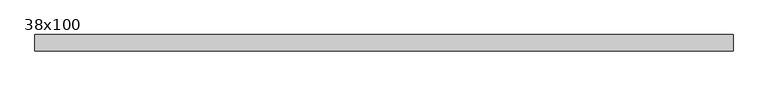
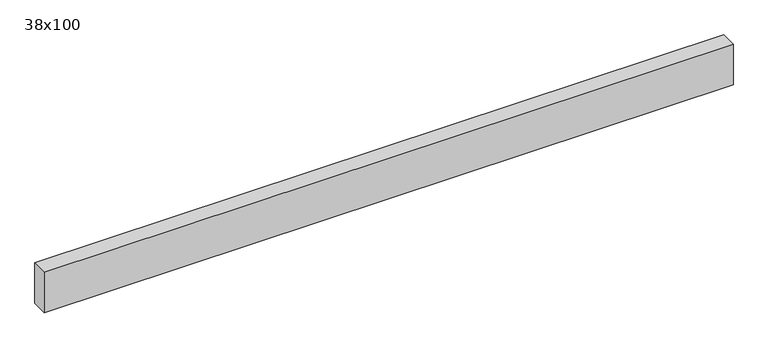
"""IFC4 building model written with IfcOpenShell, lengths in millimetres: beam geometry, Poutre - Bois de construction de dimensions courantes : 38x100."""

from ifc_helpers import new_model, si_unit, frame, origin, place, context, project, spatial, polyline, outline, extrude, source, transform, mapped, element, save


def beam_38x100_ec702416(model_context):
    return source(origin(), model_context, "Body", "SweptSolid", [
        extrude(outline(polyline([(725.0, 19.05), (725.0, -19.05), (-885.0, -19.05), (-885.0, 19.05), (725.0, 19.05)])), frame((0.0, 0.0, -50.0), z_axis=(0.0, 0.0, 1.0), x_axis=(1.0, 0.0, 0.0)), (0.0, 0.0, 1.0), 100.0),
    ])


if __name__ == "__main__":
    model = new_model("IFC4")
    model_context = context("Model", 3, world=origin())
    ifc_project = project(units=[si_unit("LENGTHUNIT", "METRE", prefix="MILLI")], contexts=[model_context])
    site = spatial("IfcSite", under=ifc_project)
    building = spatial("IfcBuilding", under=site)
    placement = place(None, origin())
    beam_38x100_shape = beam_38x100_ec702416(model_context)
    element("IfcBeam", 1, ObjectType="Poutre - Bois de construction de dimensions courantes : 38x100", at=placement, inside=building, context=model_context, shape_type="MappedRepresentation", body=[
        mapped(beam_38x100_shape, transform((0.0, 0.0, 0.0), x_axis=(1.0, 0.0, 0.0), y_axis=(0.0, 1.0, 0.0), z_axis=(0.0, 0.0, 1.0))),
    ])
    save(model, "model.ifc")
